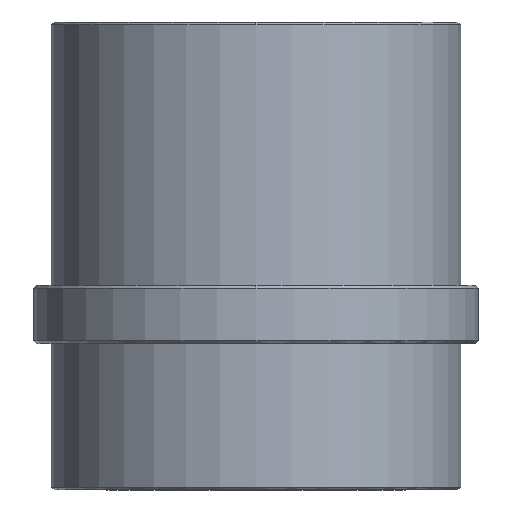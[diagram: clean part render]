
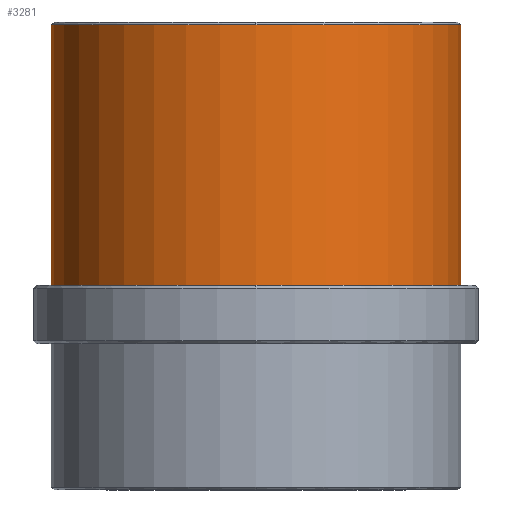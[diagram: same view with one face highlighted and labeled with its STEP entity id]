
A CAD part, front view. The second image highlights one B-rep face of the part: STEP entity #3281.
In plain terms, the highlighted cylindrical face has radius 35 mm (diameter 70 mm), a partial arc.
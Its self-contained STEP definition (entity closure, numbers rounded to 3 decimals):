
#3102=CARTESIAN_POINT('Vertex',(35.,0.,54.5)) ;
#3126=CARTESIAN_POINT('Vertex',(-35.,0.,54.5)) ;
#3150=CARTESIAN_POINT('Vertex',(0.,-35.,54.5)) ;
#3153=CARTESIAN_POINT('Axis2P3D Location',(0.,0.,54.5)) ;
#3170=CARTESIAN_POINT('Axis2P3D Location',(0.,0.,54.5)) ;
#3237=CARTESIAN_POINT('Line Origine',(35.,0.,-29.)) ;
#3241=CARTESIAN_POINT('Vertex',(35.,0.,10.)) ;
#3248=CARTESIAN_POINT('Vertex',(-35.,0.,10.)) ;
#3251=CARTESIAN_POINT('Line Origine',(-35.,0.,-29.)) ;
#3264=CARTESIAN_POINT('Axis2P3D Location',(0.,0.,-29.)) ;
#3269=CARTESIAN_POINT('Axis2P3D Location',(0.,0.,10.)) ;
#3154=DIRECTION('Axis2P3D Direction',(0.,0.,-1.)) ;
#3171=DIRECTION('Axis2P3D Direction',(0.,0.,-1.)) ;
#3238=DIRECTION('Vector Direction',(0.,0.,1.)) ;
#3252=DIRECTION('Vector Direction',(0.,0.,1.)) ;
#3265=DIRECTION('Axis2P3D Direction',(0.,0.,1.)) ;
#3266=DIRECTION('Axis2P3D XDirection',(-1.,0.,0.)) ;
#3270=DIRECTION('Axis2P3D Direction',(0.,0.,1.)) ;
#3155=AXIS2_PLACEMENT_3D('Circle Axis2P3D',#3153,#3154,$) ;
#3172=AXIS2_PLACEMENT_3D('Circle Axis2P3D',#3170,#3171,$) ;
#3267=AXIS2_PLACEMENT_3D('Cylinder Axis2P3D',#3264,#3265,#3266) ;
#3271=AXIS2_PLACEMENT_3D('Circle Axis2P3D',#3269,#3270,$) ;
#3275=ORIENTED_EDGE('',*,*,#3255,.T.) ;
#3276=ORIENTED_EDGE('',*,*,#3273,.F.) ;
#3277=ORIENTED_EDGE('',*,*,#3243,.F.) ;
#3278=ORIENTED_EDGE('',*,*,#3174,.T.) ;
#3279=ORIENTED_EDGE('',*,*,#3157,.T.) ;
#3239=VECTOR('Line Direction',#3238,1.) ;
#3253=VECTOR('Line Direction',#3252,1.) ;
#3281=ADVANCED_FACE('MANIFOLD_SOLID_BREP #2774',(#3280),#3268,.T.) ;
#3156=CIRCLE('generated circle',#3155,35.) ;
#3173=CIRCLE('generated circle',#3172,35.) ;
#3272=CIRCLE('generated circle',#3271,35.) ;
#3268=CYLINDRICAL_SURFACE('generated cylinder',#3267,35.) ;
#3157=EDGE_CURVE('',#3151,#3127,#3156,.T.) ;
#3174=EDGE_CURVE('',#3103,#3151,#3173,.T.) ;
#3243=EDGE_CURVE('',#3103,#3242,#3240,.F.) ;
#3255=EDGE_CURVE('',#3127,#3249,#3254,.F.) ;
#3273=EDGE_CURVE('',#3242,#3249,#3272,.F.) ;
#3274=EDGE_LOOP('',(#3275,#3276,#3277,#3278,#3279)) ;
#3280=FACE_OUTER_BOUND('',#3274,.T.) ;
#3240=LINE('Line',#3237,#3239) ;
#3254=LINE('Line',#3251,#3253) ;
#3103=VERTEX_POINT('',#3102) ;
#3127=VERTEX_POINT('',#3126) ;
#3151=VERTEX_POINT('',#3150) ;
#3242=VERTEX_POINT('',#3241) ;
#3249=VERTEX_POINT('',#3248) ;
